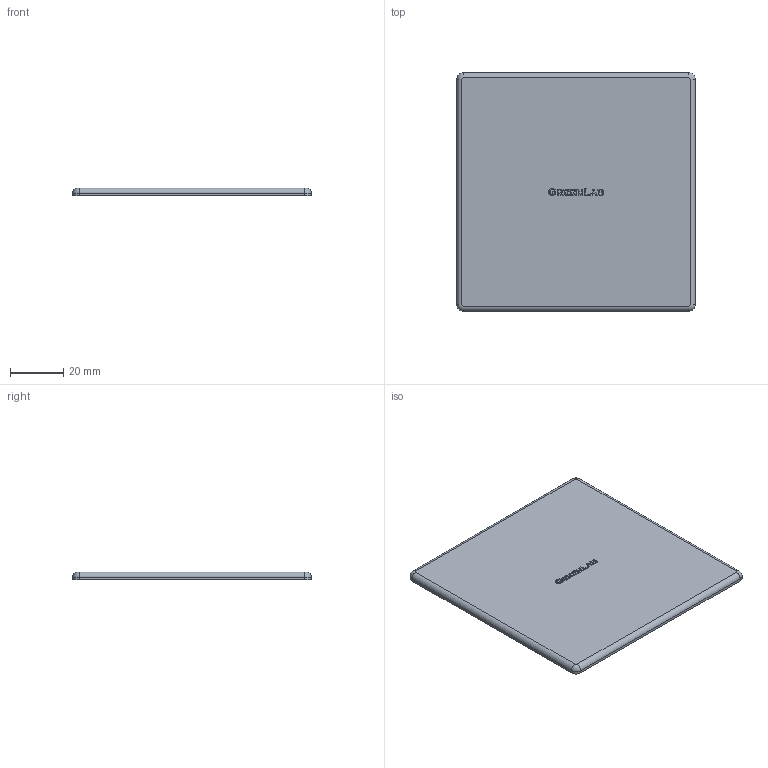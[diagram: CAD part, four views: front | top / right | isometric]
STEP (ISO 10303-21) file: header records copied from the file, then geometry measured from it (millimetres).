
FILE_DESCRIPTION (( 'STEP AP214' ), '1' );
FILE_NAME ('1.1028 Päätysuoja 90X90.STEP', '2023-12-04T13:34:25', ( '' ), ( '' ), 'SwSTEP 2.0', 'SolidWorks 2019', '' );
FILE_SCHEMA (( 'AUTOMOTIVE_DESIGN' ));
Length unit declared in the file: millimetre
Products named in the file (1): 1.1028 Päätysuoja 90X90
Bounding box: 90 x 90 x 3 mm (x, y, z)
Volume: 23970.2 mm3; surface area: 17003 mm2
Topology: 1 solids, 1 shells, 240 faces, 670 edges, 444 vertices
Faces by surface type: plane 143, bspline 85, cylinder 8, torus 4
Entity records: 10306 total; most frequent: CARTESIAN_POINT 4672, ORIENTED_EDGE 1340, DIRECTION 832, EDGE_CURVE 670, VECTOR 480, LINE 480, VERTEX_POINT 444, EDGE_LOOP 252
